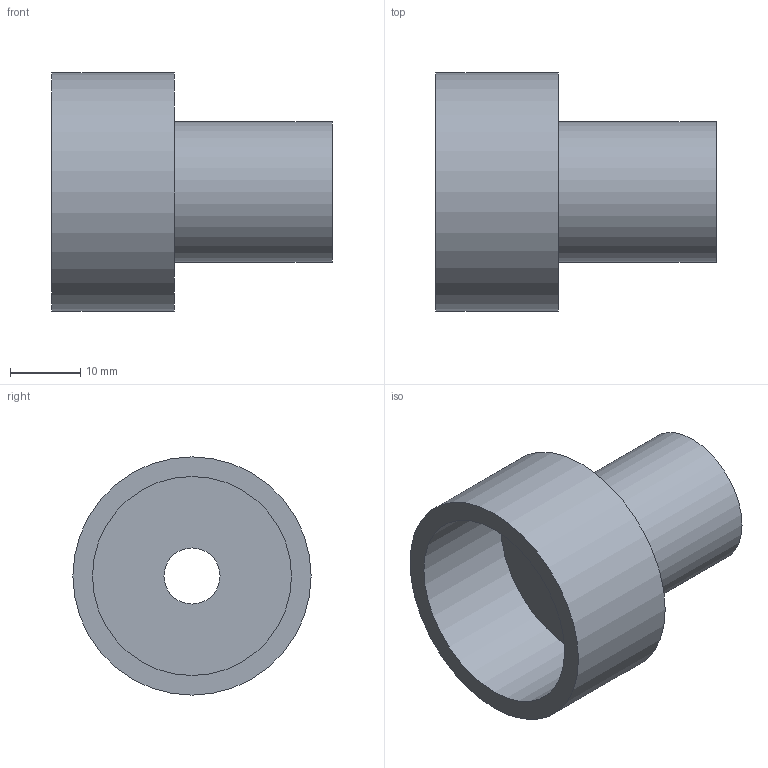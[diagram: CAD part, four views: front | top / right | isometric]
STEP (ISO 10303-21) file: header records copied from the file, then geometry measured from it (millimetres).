
FILE_DESCRIPTION(('Open CASCADE Model'),'2;1');
FILE_NAME('Open CASCADE Shape Model','2026-10-24T14:13:33',('Author'),( 'Open CASCADE'),'Open CASCADE STEP processor 7.9','Open CASCADE 7.9' ,'Unknown');
FILE_SCHEMA(('AUTOMOTIVE_DESIGN { 1 0 10303 214 1 1 1 1 }'));
Length unit declared in the file: millimetre
Products named in the file (1): Open CASCADE STEP translator 7.9 11
Bounding box: 40 x 34 x 34 mm (x, y, z)
Volume: 9582.6 mm3; surface area: 7521.2 mm2
Topology: 1 solids, 1 shells, 12 faces, 18 edges, 12 vertices
Faces by surface type: plane 6, cylinder 6
Full cylindrical faces by diameter (mm): 8 x1, 12 x1, 14.5 x1, 20 x1, 28.4 x1, 34 x1
Entity records: 522 total; most frequent: DIRECTION 92, CARTESIAN_POINT 79, ORIENTED_EDGE 36, PCURVE 36, DEFINITIONAL_REPRESENTATION 36, LINE 30, VECTOR 30, AXIS2_PLACEMENT_3D 25
